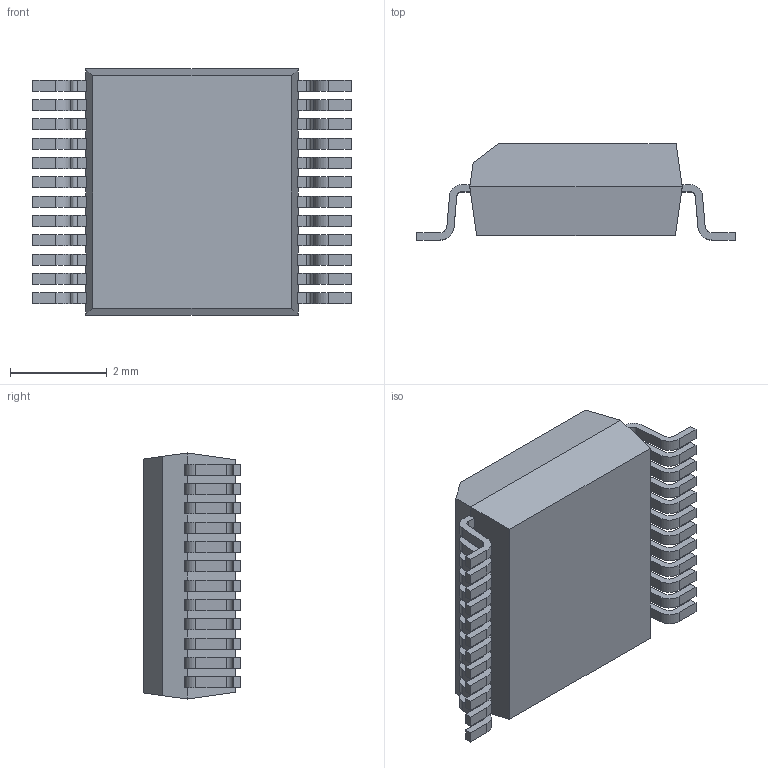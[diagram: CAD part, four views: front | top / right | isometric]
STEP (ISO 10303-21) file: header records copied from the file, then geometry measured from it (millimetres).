
FILE_DESCRIPTION (( 'STEP AP214' ), '1' );
FILE_NAME ('SSOP40P640X200-24_MO-152.CA.STEP', '2014-10-30T11:23:52', ( 'Tester2' ), ( '' ), 'SwSTEP 2.0', 'SolidWorks 2012', '' );
FILE_SCHEMA (( 'AUTOMOTIVE_DESIGN' ));
Length unit declared in the file: millimetre
Products named in the file (1): SSOP40P640X200-24_MO-152.CA
Bounding box: 6.6 x 2 x 5.1 mm (x, y, z)
Volume: 41.4 mm3; surface area: 108.6 mm2
Topology: 1 solids, 1 shells, 326 faces, 965 edges, 642 vertices
Faces by surface type: plane 228, cylinder 98
Entity records: 14352 total; most frequent: CARTESIAN_POINT 1934, ORIENTED_EDGE 1930, DIRECTION 1815, EDGE_CURVE 965, LINE 769, VECTOR 769, VERTEX_POINT 642, AXIS2_PLACEMENT_3D 523
